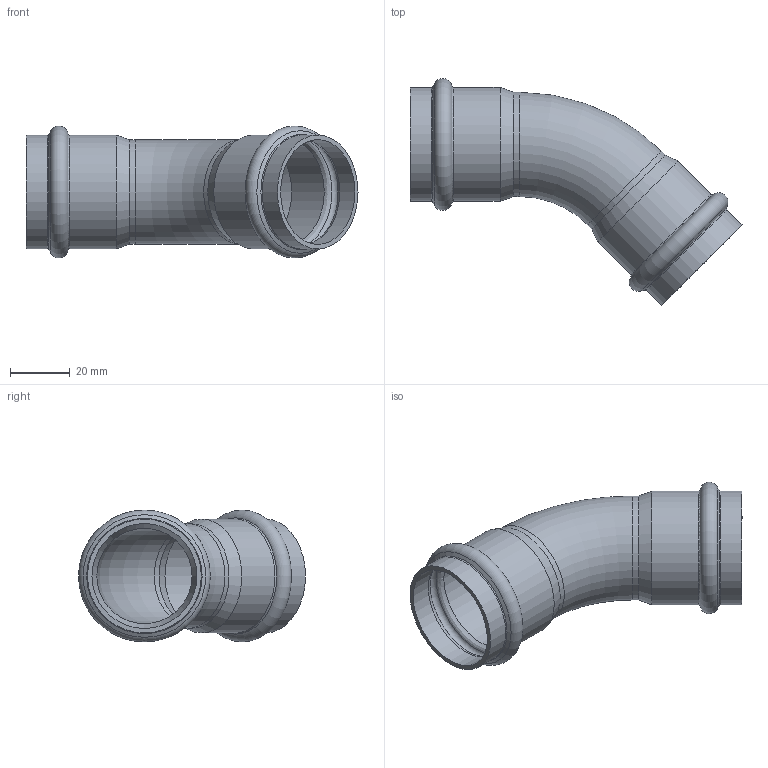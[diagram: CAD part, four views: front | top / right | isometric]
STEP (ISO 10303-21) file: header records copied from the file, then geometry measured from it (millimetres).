
FILE_DESCRIPTION((''),'2;1');
FILE_NAME('G:\Nirosan-Schmiedefeld\Technics\CAD\Bauteile VA\035\6904135(1).stp','2011-09-09T11:17:16',('herberg'),(''),'Autodesk Inventor 2009','Autodesk Inventor 2009','');
FILE_SCHEMA(('AUTOMOTIVE_DESIGN { 1 0 10303 214 1 1 1 1 }'));
Length unit declared in the file: millimetre
Products named in the file (1): 6904135(1)
Bounding box: 111.51 x 76.26 x 44.29 mm (x, y, z)
Volume: 20185.6 mm3; surface area: 27259.7 mm2
Topology: 1 solids, 1 shells, 36 faces, 76 edges, 42 vertices
Faces by surface type: cylinder 12, cone 8, bspline 8, torus 6, plane 2
Full cylindrical faces by diameter (mm): 32 x2, 35 x2, 35.25 x4, 38.25 x4
Entity records: 1218 total; most frequent: CARTESIAN_POINT 605, DIRECTION 130, ORIENTED_EDGE 72, EDGE_LOOP 72, AXIS2_PLACEMENT_3D 65, VERTEX_POINT 36, CIRCLE 36, EDGE_CURVE 36
